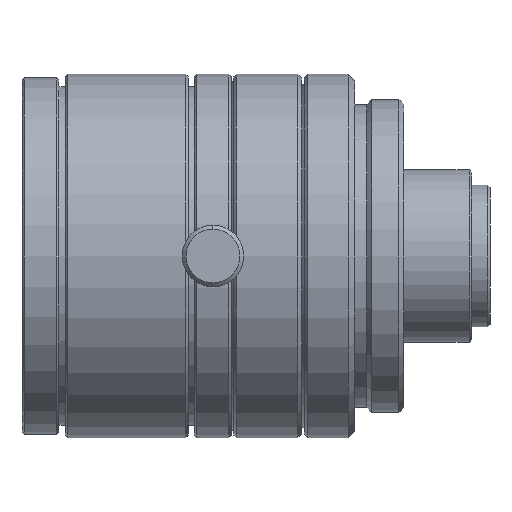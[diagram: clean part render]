
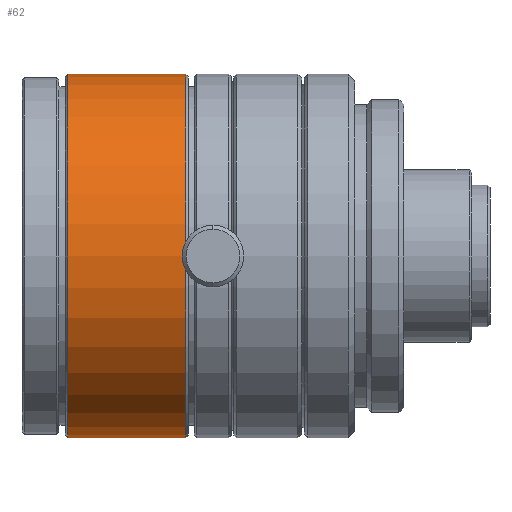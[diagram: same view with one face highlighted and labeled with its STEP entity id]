
A CAD part, front view. The second image highlights one B-rep face of the part: STEP entity #62.
In plain terms, the highlighted cylindrical face has radius 14.75 mm (diameter 29.5 mm), a partial arc.
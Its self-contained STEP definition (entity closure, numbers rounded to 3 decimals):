
#62 = ADVANCED_FACE ( 'NONE', ( #2230 ), #2976, .T. ) ;
#182 = DIRECTION ( 'NONE',  ( 1., 0., 0. ) ) ;
#199 = CARTESIAN_POINT ( 'NONE',  ( -40.8, 0., -14.75 ) ) ;
#269 = VECTOR ( 'NONE', #1491, 1000. ) ;
#485 = ORIENTED_EDGE ( 'NONE', *, *, #3432, .F. ) ;
#544 = CIRCLE ( 'NONE', #1178, 14.75 ) ;
#549 = DIRECTION ( 'NONE',  ( 1., 0., 0. ) ) ;
#734 = AXIS2_PLACEMENT_3D ( 'NONE', #3994, #3767, #3583 ) ;
#1129 = DIRECTION ( 'NONE',  ( 1., 0., 0. ) ) ;
#1132 = CARTESIAN_POINT ( 'NONE',  ( 0., 0., 14.75 ) ) ;
#1178 = AXIS2_PLACEMENT_3D ( 'NONE', #2278, #182, #2601 ) ;
#1488 = EDGE_LOOP ( 'NONE', ( #3180, #3972, #4090, #485 ) ) ;
#1491 = DIRECTION ( 'NONE',  ( 1., 0., 0. ) ) ;
#1692 = EDGE_CURVE ( 'NONE', #1759, #2116, #2108, .T. ) ;
#1759 = VERTEX_POINT ( 'NONE', #199 ) ;
#2056 = EDGE_CURVE ( 'NONE', #3959, #1759, #4059, .T. ) ;
#2108 = LINE ( 'NONE', #2874, #2776 ) ;
#2116 = VERTEX_POINT ( 'NONE', #3079 ) ;
#2230 = FACE_OUTER_BOUND ( 'NONE', #1488, .T. ) ;
#2278 = CARTESIAN_POINT ( 'NONE',  ( -31.2, 0., 0. ) ) ;
#2601 = DIRECTION ( 'NONE',  ( 0., 0., -1. ) ) ;
#2776 = VECTOR ( 'NONE', #1129, 1000. ) ;
#2874 = CARTESIAN_POINT ( 'NONE',  ( 0., 0., -14.75 ) ) ;
#2888 = VERTEX_POINT ( 'NONE', #3029 ) ;
#2976 = CYLINDRICAL_SURFACE ( 'NONE', #734, 14.75 ) ;
#3029 = CARTESIAN_POINT ( 'NONE',  ( -31.2, 0., 14.75 ) ) ;
#3059 = AXIS2_PLACEMENT_3D ( 'NONE', #4299, #549, #3571 ) ;
#3079 = CARTESIAN_POINT ( 'NONE',  ( -31.2, 0., -14.75 ) ) ;
#3090 = LINE ( 'NONE', #1132, #269 ) ;
#3180 = ORIENTED_EDGE ( 'NONE', *, *, #4262, .F. ) ;
#3432 = EDGE_CURVE ( 'NONE', #2888, #2116, #544, .T. ) ;
#3503 = CARTESIAN_POINT ( 'NONE',  ( -40.8, 0., 14.75 ) ) ;
#3571 = DIRECTION ( 'NONE',  ( 0., 0., -1. ) ) ;
#3583 = DIRECTION ( 'NONE',  ( 0., 0., -1. ) ) ;
#3767 = DIRECTION ( 'NONE',  ( 1., 0., 0. ) ) ;
#3959 = VERTEX_POINT ( 'NONE', #3503 ) ;
#3972 = ORIENTED_EDGE ( 'NONE', *, *, #2056, .T. ) ;
#3994 = CARTESIAN_POINT ( 'NONE',  ( 0., 0., 0. ) ) ;
#4059 = CIRCLE ( 'NONE', #3059, 14.75 ) ;
#4090 = ORIENTED_EDGE ( 'NONE', *, *, #1692, .T. ) ;
#4262 = EDGE_CURVE ( 'NONE', #3959, #2888, #3090, .T. ) ;
#4299 = CARTESIAN_POINT ( 'NONE',  ( -40.8, 0., 0. ) ) ;
